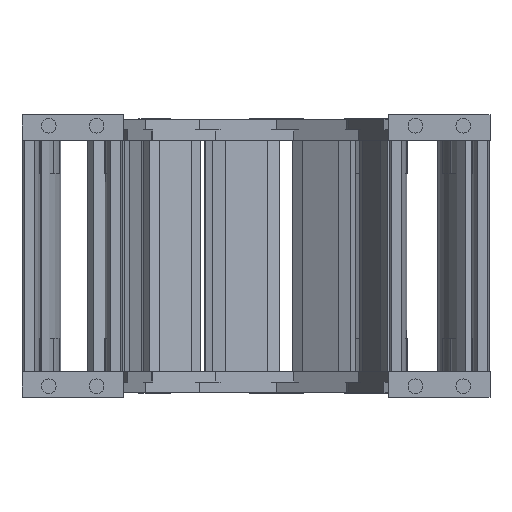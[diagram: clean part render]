
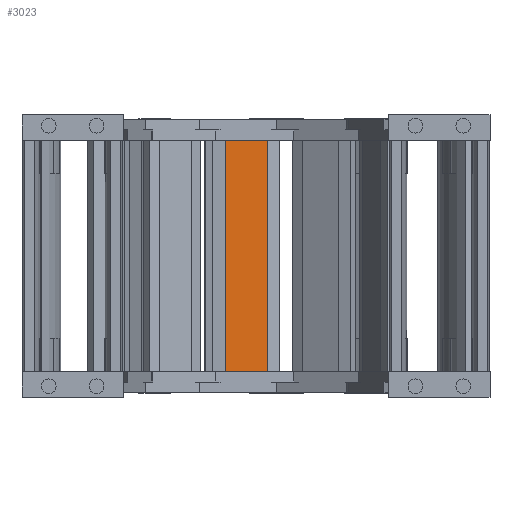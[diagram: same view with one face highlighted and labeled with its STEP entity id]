
A CAD part, left-side view. The second image highlights one B-rep face of the part: STEP entity #3023.
In plain terms, the highlighted planar face has unit normal (-0.996, -0.085, 0) as drawn and (0, 1, 0) by its records, which use the part's own axes.
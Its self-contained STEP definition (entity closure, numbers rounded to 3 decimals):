
#2766=DIRECTION('',(1.,0.,0.));
#2767=VECTOR('',#2766,23.);
#2768=CARTESIAN_POINT('',(-11.5,3.,112.9));
#2769=LINE('',#2768,#2767);
#2815=DIRECTION('',(0.,0.,-1.));
#2816=VECTOR('',#2815,125.4);
#2817=CARTESIAN_POINT('',(11.5,3.,112.9));
#2818=LINE('',#2817,#2816);
#2837=DIRECTION('',(-1.,0.,0.));
#2838=VECTOR('',#2837,23.);
#2839=CARTESIAN_POINT('',(11.5,3.,-12.5));
#2840=LINE('',#2839,#2838);
#2851=DIRECTION('',(0.,0.,-1.));
#2852=VECTOR('',#2851,125.4);
#2853=CARTESIAN_POINT('',(-11.5,3.,112.9));
#2854=LINE('',#2853,#2852);
#2878=CARTESIAN_POINT('',(11.5,3.,112.9));
#2879=VERTEX_POINT('',#2878);
#2882=CARTESIAN_POINT('',(-11.5,3.,112.9));
#2883=VERTEX_POINT('',#2882);
#2890=CARTESIAN_POINT('',(11.5,3.,-12.5));
#2891=VERTEX_POINT('',#2890);
#2892=CARTESIAN_POINT('',(-11.5,3.,-12.5));
#2893=VERTEX_POINT('',#2892);
#3011=CARTESIAN_POINT('',(15.5,3.,62.9));
#3012=DIRECTION('',(0.,1.,0.));
#3013=DIRECTION('',(-1.,0.,0.));
#3014=AXIS2_PLACEMENT_3D('',#3011,#3012,#3013);
#3015=PLANE('',#3014);
#3017=ORIENTED_EDGE('',*,*,#3016,.T.);
#3018=ORIENTED_EDGE('',*,*,#2995,.F.);
#3019=ORIENTED_EDGE('',*,*,#2975,.F.);
#3020=ORIENTED_EDGE('',*,*,#2907,.F.);
#3021=EDGE_LOOP('',(#3017,#3018,#3019,#3020));
#3022=FACE_OUTER_BOUND('',#3021,.F.);
#3023=ADVANCED_FACE('',(#3022),#3015,.T.);
#2907=EDGE_CURVE('',#2883,#2879,#2769,.T.);
#2975=EDGE_CURVE('',#2879,#2891,#2818,.T.);
#2995=EDGE_CURVE('',#2891,#2893,#2840,.T.);
#3016=EDGE_CURVE('',#2883,#2893,#2854,.T.);
